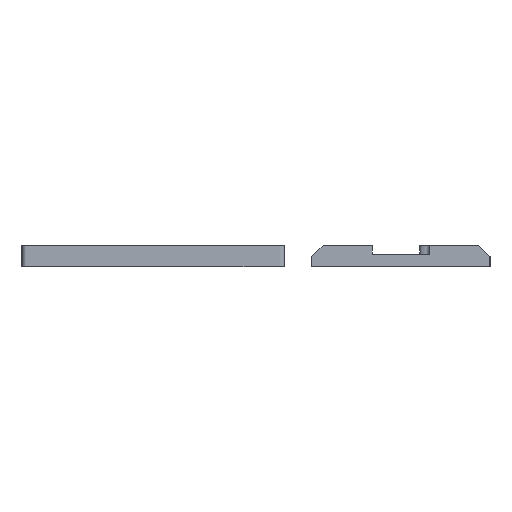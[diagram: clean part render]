
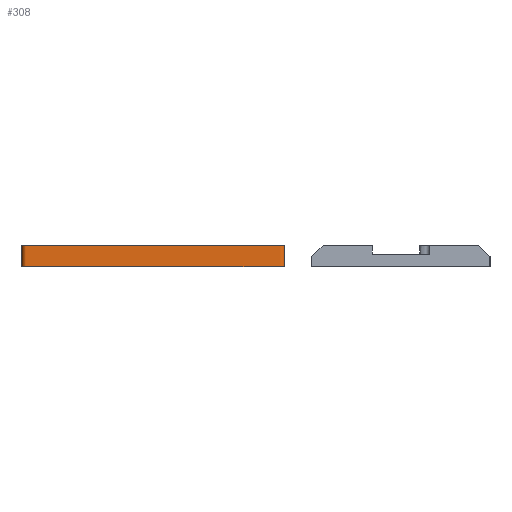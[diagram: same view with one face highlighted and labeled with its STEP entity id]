
A CAD part, left-side view. The second image highlights one B-rep face of the part: STEP entity #308.
In plain terms, the highlighted free-form (B-spline) face has degree [2, 1] with [9, 2] control points.
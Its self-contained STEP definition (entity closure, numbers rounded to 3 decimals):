
#308=ADVANCED_FACE('',(#493),#3109,.T.);
#493=FACE_OUTER_BOUND('',#794,.T.);
#794=EDGE_LOOP('',(#1682,#1683,#1684,#1685));
#1682=ORIENTED_EDGE('',*,*,#2161,.T.);
#1683=ORIENTED_EDGE('',*,*,#2120,.F.);
#1684=ORIENTED_EDGE('',*,*,#2119,.F.);
#1685=ORIENTED_EDGE('',*,*,#2121,.T.);
#2119=EDGE_CURVE('',#2922,#2936,#2558,.T.);
#2120=EDGE_CURVE('',#2936,#2951,#2559,.T.);
#2121=EDGE_CURVE('',#2922,#2950,#2560,.T.);
#2161=EDGE_CURVE('',#2950,#2951,#2600,.T.);
#2558=(
BOUNDED_CURVE()
B_SPLINE_CURVE(1,(#19682,#19683),.UNSPECIFIED.,.F.,.F.)
B_SPLINE_CURVE_WITH_KNOTS((2,2),(0.,9.5),.UNSPECIFIED.)
CURVE()
GEOMETRIC_REPRESENTATION_ITEM()
RATIONAL_B_SPLINE_CURVE((1.,1.))
REPRESENTATION_ITEM('')
);
#2559=(
BOUNDED_CURVE()
B_SPLINE_CURVE(2,(#19684,#19685,#19686,#19687,#19688,#19689,#19690,#19691,
#19692),.UNSPECIFIED.,.F.,.F.)
B_SPLINE_CURVE_WITH_KNOTS((3,2,2,2,3),(200.142,203.283,
204.283,207.425,403.425),.UNSPECIFIED.)
CURVE()
GEOMETRIC_REPRESENTATION_ITEM()
RATIONAL_B_SPLINE_CURVE((1.,0.707,1.,1.,1.,0.707,
1.,1.,1.))
REPRESENTATION_ITEM('')
);
#2560=(
BOUNDED_CURVE()
B_SPLINE_CURVE(2,(#19693,#19694,#19695,#19696,#19697,#19698,#19699,#19700,
#19701),.UNSPECIFIED.,.F.,.F.)
B_SPLINE_CURVE_WITH_KNOTS((3,2,2,2,3),(200.142,203.283,
204.283,207.425,403.425),.UNSPECIFIED.)
CURVE()
GEOMETRIC_REPRESENTATION_ITEM()
RATIONAL_B_SPLINE_CURVE((1.,0.707,1.,1.,1.,0.707,
1.,1.,1.))
REPRESENTATION_ITEM('')
);
#2600=(
BOUNDED_CURVE()
B_SPLINE_CURVE(1,(#19878,#19879),.UNSPECIFIED.,.F.,.F.)
B_SPLINE_CURVE_WITH_KNOTS((2,2),(0.,9.5),.UNSPECIFIED.)
CURVE()
GEOMETRIC_REPRESENTATION_ITEM()
RATIONAL_B_SPLINE_CURVE((1.,1.))
REPRESENTATION_ITEM('')
);
#2922=VERTEX_POINT('',#19626);
#2936=VERTEX_POINT('',#19640);
#2950=VERTEX_POINT('',#19654);
#2951=VERTEX_POINT('',#19655);
#3109=(
BOUNDED_SURFACE()
B_SPLINE_SURFACE(2,1,((#19458,#19459),(#19460,#19461),(#19462,#19463),(#19464,
#19465),(#19466,#19467),(#19468,#19469),(#19470,#19471),(#19472,#19473),
(#19474,#19475)),.UNSPECIFIED.,.F.,.F.,.F.)
B_SPLINE_SURFACE_WITH_KNOTS((3,2,2,2,3),(2,2),(200.142,203.283,
204.283,207.425,403.425),(0.,9.5),
 .UNSPECIFIED.)
GEOMETRIC_REPRESENTATION_ITEM()
RATIONAL_B_SPLINE_SURFACE(((1.,1.),(0.707,0.707),
(1.,1.),(1.,1.),(1.,1.),(0.707,0.707),(1.,1.),(1.,
1.),(1.,1.)))
REPRESENTATION_ITEM('')
SURFACE()
);
#19458=CARTESIAN_POINT('',(-3.013,-403.058,0.));
#19459=CARTESIAN_POINT('',(-3.013,-403.058,9.5));
#19460=CARTESIAN_POINT('',(-5.013,-403.058,0.));
#19461=CARTESIAN_POINT('',(-5.013,-403.058,9.5));
#19462=CARTESIAN_POINT('',(-5.013,-405.058,0.));
#19463=CARTESIAN_POINT('',(-5.013,-405.058,9.5));
#19464=CARTESIAN_POINT('',(-5.013,-462.008,0.));
#19465=CARTESIAN_POINT('',(-5.013,-462.008,9.5));
#19466=CARTESIAN_POINT('',(-5.013,-518.958,0.));
#19467=CARTESIAN_POINT('',(-5.013,-518.958,9.5));
#19468=CARTESIAN_POINT('',(-5.013,-520.958,0.));
#19469=CARTESIAN_POINT('',(-5.013,-520.958,9.5));
#19470=CARTESIAN_POINT('',(-3.013,-520.958,0.));
#19471=CARTESIAN_POINT('',(-3.013,-520.958,9.5));
#19472=CARTESIAN_POINT('',(94.987,-520.958,0.));
#19473=CARTESIAN_POINT('',(94.987,-520.958,9.5));
#19474=CARTESIAN_POINT('',(192.987,-520.958,0.));
#19475=CARTESIAN_POINT('',(192.987,-520.958,9.5));
#19626=CARTESIAN_POINT('',(-3.013,-403.058,0.));
#19640=CARTESIAN_POINT('',(-3.013,-403.058,9.5));
#19654=CARTESIAN_POINT('',(192.987,-520.958,0.));
#19655=CARTESIAN_POINT('',(192.987,-520.958,9.5));
#19682=CARTESIAN_POINT('',(-3.013,-403.058,0.));
#19683=CARTESIAN_POINT('',(-3.013,-403.058,9.5));
#19684=CARTESIAN_POINT('',(-3.013,-403.058,9.5));
#19685=CARTESIAN_POINT('',(-5.013,-403.058,9.5));
#19686=CARTESIAN_POINT('',(-5.013,-405.058,9.5));
#19687=CARTESIAN_POINT('',(-5.013,-462.008,9.5));
#19688=CARTESIAN_POINT('',(-5.013,-518.958,9.5));
#19689=CARTESIAN_POINT('',(-5.013,-520.958,9.5));
#19690=CARTESIAN_POINT('',(-3.013,-520.958,9.5));
#19691=CARTESIAN_POINT('',(94.987,-520.958,9.5));
#19692=CARTESIAN_POINT('',(192.987,-520.958,9.5));
#19693=CARTESIAN_POINT('',(-3.013,-403.058,0.));
#19694=CARTESIAN_POINT('',(-5.013,-403.058,0.));
#19695=CARTESIAN_POINT('',(-5.013,-405.058,0.));
#19696=CARTESIAN_POINT('',(-5.013,-462.008,0.));
#19697=CARTESIAN_POINT('',(-5.013,-518.958,0.));
#19698=CARTESIAN_POINT('',(-5.013,-520.958,0.));
#19699=CARTESIAN_POINT('',(-3.013,-520.958,0.));
#19700=CARTESIAN_POINT('',(94.987,-520.958,0.));
#19701=CARTESIAN_POINT('',(192.987,-520.958,0.));
#19878=CARTESIAN_POINT('',(192.987,-520.958,0.));
#19879=CARTESIAN_POINT('',(192.987,-520.958,9.5));
